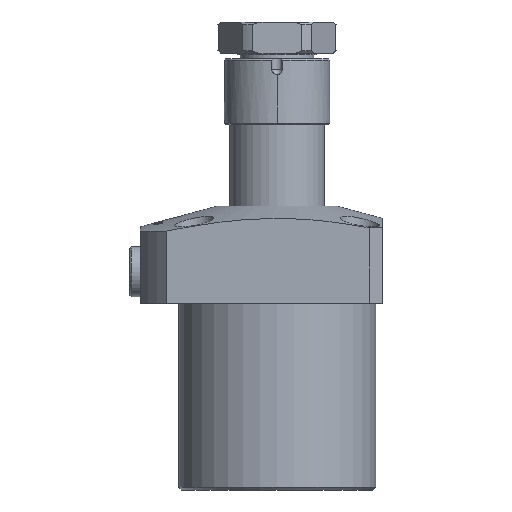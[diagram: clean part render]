
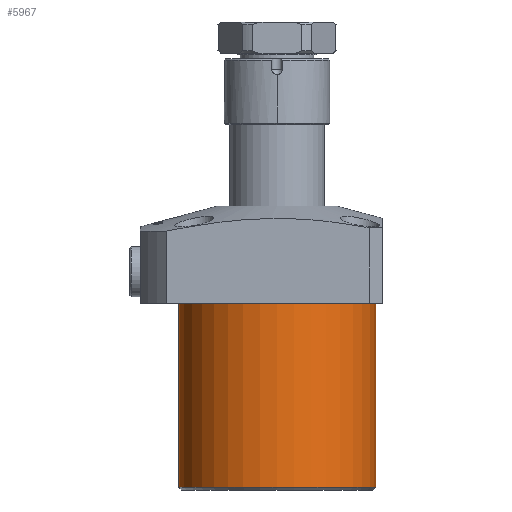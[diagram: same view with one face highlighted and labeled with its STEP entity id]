
A CAD part, front view. The second image highlights one B-rep face of the part: STEP entity #5967.
In plain terms, the highlighted cylindrical face has radius 37.5 mm (diameter 75 mm), a partial arc.
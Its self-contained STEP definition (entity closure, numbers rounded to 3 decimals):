
#87 = EDGE_CURVE ( 'NONE', #468, #10710, #16932, .T. ) ;
#224 = DIRECTION ( 'NONE',  ( 1., 0., 0. ) ) ;
#365 = AXIS2_PLACEMENT_3D ( 'NONE', #1252, #10363, #2581 ) ;
#468 = VERTEX_POINT ( 'NONE', #10450 ) ;
#1087 = EDGE_CURVE ( 'NONE', #9931, #11941, #9454, .T. ) ;
#1088 = ORIENTED_EDGE ( 'NONE', *, *, #7786, .T. ) ;
#1178 = CYLINDRICAL_SURFACE ( 'NONE', #6910, 37.5 ) ;
#1252 = CARTESIAN_POINT ( 'NONE',  ( 0., 0., 0. ) ) ;
#1379 = CARTESIAN_POINT ( 'NONE',  ( 37.5, 0., -71. ) ) ;
#1790 = CARTESIAN_POINT ( 'NONE',  ( 0., 0., -70. ) ) ;
#1942 = ORIENTED_EDGE ( 'NONE', *, *, #87, .T. ) ;
#2581 = DIRECTION ( 'NONE',  ( -1., 0., 0. ) ) ;
#2770 = DIRECTION ( 'NONE',  ( 0., 0., 1. ) ) ;
#2969 = DIRECTION ( 'NONE',  ( 0., 0., 1. ) ) ;
#3119 = DIRECTION ( 'NONE',  ( -1., 0., 0. ) ) ;
#3608 = ORIENTED_EDGE ( 'NONE', *, *, #8089, .T. ) ;
#3787 = CARTESIAN_POINT ( 'NONE',  ( 37.5, 0., 0. ) ) ;
#4249 = DIRECTION ( 'NONE',  ( 0., 0., 1. ) ) ;
#4458 = ORIENTED_EDGE ( 'NONE', *, *, #1087, .F. ) ;
#5443 = CIRCLE ( 'NONE', #7665, 37.5 ) ;
#5909 = CARTESIAN_POINT ( 'NONE',  ( -37.5, 0., -70. ) ) ;
#5967 = ADVANCED_FACE ( 'NONE', ( #11574 ), #1178, .T. ) ;
#6006 = VECTOR ( 'NONE', #4249, 1000. ) ;
#6910 = AXIS2_PLACEMENT_3D ( 'NONE', #10748, #2969, #224 ) ;
#7665 = AXIS2_PLACEMENT_3D ( 'NONE', #1790, #10898, #3119 ) ;
#7786 = EDGE_CURVE ( 'NONE', #9931, #468, #5443, .T. ) ;
#8089 = EDGE_CURVE ( 'NONE', #10710, #11941, #12962, .T. ) ;
#9454 = LINE ( 'NONE', #13353, #6006 ) ;
#9931 = VERTEX_POINT ( 'NONE', #5909 ) ;
#10283 = VECTOR ( 'NONE', #2770, 1000. ) ;
#10299 = EDGE_LOOP ( 'NONE', ( #4458, #1088, #1942, #3608 ) ) ;
#10363 = DIRECTION ( 'NONE',  ( 0., 0., -1. ) ) ;
#10450 = CARTESIAN_POINT ( 'NONE',  ( 37.5, 0., -70. ) ) ;
#10710 = VERTEX_POINT ( 'NONE', #3787 ) ;
#10748 = CARTESIAN_POINT ( 'NONE',  ( 0., 0., -71. ) ) ;
#10898 = DIRECTION ( 'NONE',  ( 0., 0., 1. ) ) ;
#11574 = FACE_OUTER_BOUND ( 'NONE', #10299, .T. ) ;
#11941 = VERTEX_POINT ( 'NONE', #15935 ) ;
#12962 = CIRCLE ( 'NONE', #365, 37.5 ) ;
#13353 = CARTESIAN_POINT ( 'NONE',  ( -37.5, 0., -71. ) ) ;
#15935 = CARTESIAN_POINT ( 'NONE',  ( -37.5, 0., 0. ) ) ;
#16932 = LINE ( 'NONE', #1379, #10283 ) ;
